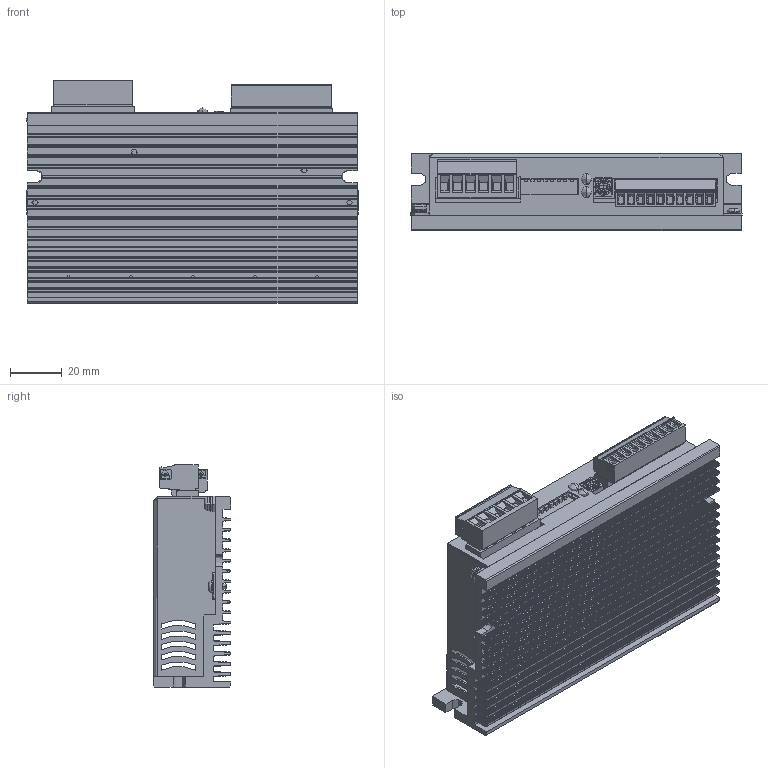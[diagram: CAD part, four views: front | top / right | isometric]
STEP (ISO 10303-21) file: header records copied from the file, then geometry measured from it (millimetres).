
FILE_DESCRIPTION((''),'2;1');
FILE_NAME('LW3_2ROTO_SISTEMATA_ASM','2016-09-01T',('Matteo Maccalli'),(''),'PRO/ENGINEER BY PARAMETRIC TECHNOLOGY CORPORATION, 2006320','PRO/ENGINEER BY PARAMETRIC TECHNOLOGY CORPORATION, 2006320','');
FILE_SCHEMA(('AUTOMOTIVE_DESIGN_CC2 { 1 2 10303 214 -1 1 5 2 }'));
Length unit declared in the file: millimetre
Products named in the file (28): ESTRUSO_ILD00_01; MC_SCA_ILD00_V03; TCC_M2E5X05; BOARD; 5151061F; GL1_ASM; RTE1600V44_BODY; RTE1600V44_SKOBA; RTE1600V44_SCREW; RTE1600V44_NUMBERS16; RTE1600V44_PINVERT; RTE1600V44_ASM_ASM; SW401_ASM; SW400_ASM; SW_DIP8_90_THD; DIP400_ASM; 1757284_NERO; CE_16X31E5_P7E62_ORIZZONTALE; CE200_ASM; 1803358_NERO; PCB_ASM; ILD00-02_ASM; 1757051_NERO; 1803659_NERO; RONDELLA_DENTELLATA; MAR_SN3; TCC_M3X06_AF0; LW3_2ROTO_SISTEMATA_ASM
Assembly tree (33 placements, depth 6):
  LW3_2ROTO_SISTEMATA_ASM
    ESTRUSO_ILD00_01
    MC_SCA_ILD00_V03
    TCC_M2E5X05  x2
    ILD00-02_ASM
      PCB_ASM
        BOARD
        GL1_ASM
          5151061F
        SW401_ASM
          RTE1600V44_ASM_ASM
            RTE1600V44_BODY
            RTE1600V44_SKOBA
            RTE1600V44_SCREW
            RTE1600V44_NUMBERS16
            RTE1600V44_PINVERT  x5
        SW400_ASM
          RTE1600V44_ASM_ASM
            RTE1600V44_BODY
            RTE1600V44_SKOBA
            RTE1600V44_SCREW
            RTE1600V44_NUMBERS16
            RTE1600V44_PINVERT  x5
        DIP400_ASM
          SW_DIP8_90_THD
        1757284_NERO
        CE200_ASM
          CE_16X31E5_P7E62_ORIZZONTALE
        1803358_NERO
    1757051_NERO
    1803659_NERO
    RONDELLA_DENTELLATA
    MAR_SN3
    TCC_M3X06_AF0
Bounding box: 128.8 x 30 x 86.15 mm (x, y, z)
Topology: 17 solids, 118 shells, 5061 faces, 13685 edges, 8962 vertices
Faces by surface type: plane 3352, cylinder 1129, extrusion 306, torus 94, sphere 90, cone 78, bspline 12
Full cylindrical faces by diameter (mm): 0.4 x8, 0.6 x8, 1 x4, 1.6 x8, 3.2 x8
Entity records: 209845 total; most frequent: CARTESIAN_POINT 31562, ORIENTED_EDGE 24410, DIRECTION 23217, PRESENTATION_STYLE_ASSIGNMENT 14908, STYLED_ITEM 12385, EDGE_CURVE 12349, CURVE_STYLE 11730, VECTOR 8819
